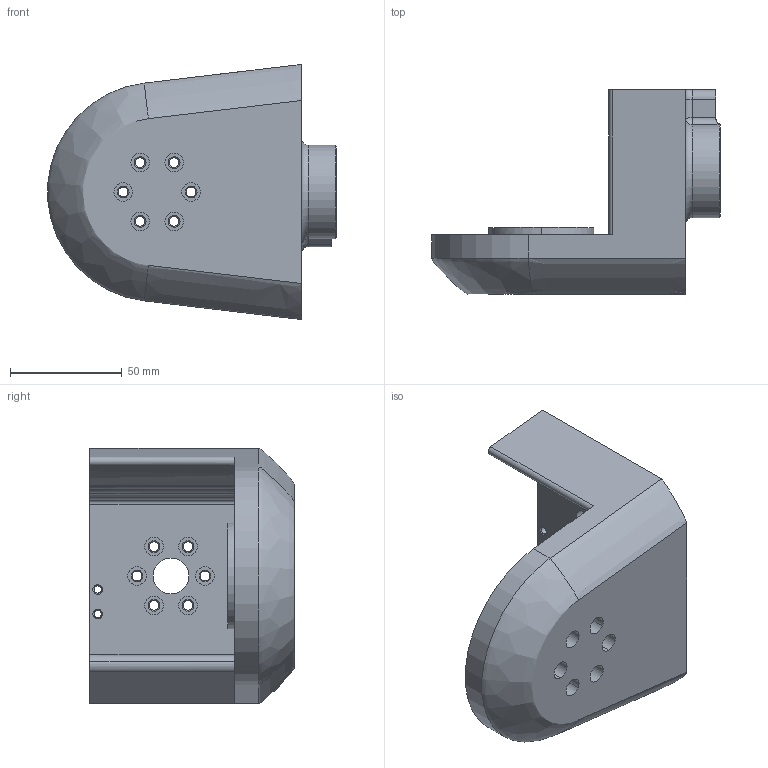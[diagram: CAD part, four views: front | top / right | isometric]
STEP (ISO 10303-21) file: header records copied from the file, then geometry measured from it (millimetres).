
FILE_DESCRIPTION((''),'2;1');
FILE_NAME('KD-C-101R-SHLDYOKEDRIVE_1','2025-07-12T13:51:24',('Administrator'),(''),'CREO PARAMETRIC BY PTC INC, 2022073','CREO PARAMETRIC BY PTC INC, 2022073','');
FILE_SCHEMA(('CONFIG_CONTROL_DESIGN'));
Length unit declared in the file: millimetre
Products named in the file (1): KD-C-101R-SHLDYOKEDRIVE_1
Bounding box: 128.82 x 91.25 x 114 mm (x, y, z)
Volume: 165310.5 mm3; surface area: 79355.8 mm2
Topology: 1 solids, 1 shells, 353 faces, 1036 edges, 686 vertices
Faces by surface type: cylinder 180, cone 80, plane 72, bspline 6, extrusion 5, torus 5, revolution 3, sphere 2
Entity records: 13720 total; most frequent: CARTESIAN_POINT 3961, DIRECTION 2169, ORIENTED_EDGE 2024, EDGE_CURVE 1012, AXIS2_PLACEMENT_3D 887, VERTEX_POINT 686, CIRCLE 548, EDGE_LOOP 408
